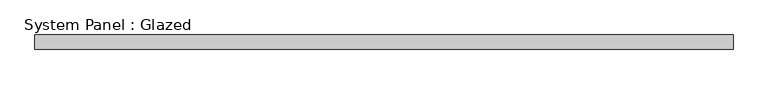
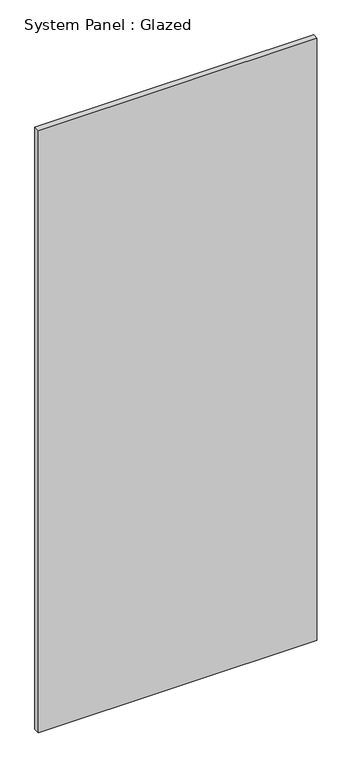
"""IFC4 building model written with IfcOpenShell, lengths in millimetres: plate geometry, System Panel : Glazed."""

from ifc_helpers import new_model, si_unit, origin, origin_with_axes, place, context, project, spatial, polyline, outline, extrude, source, transform, mapped, element, save


def system_panel_glazed_670afc41(model_context):
    return source(origin(), model_context, "Body", "SweptSolid", [
        extrude(outline(polyline([(612.5000001, -44.45), (-612.5000001, -44.45), (-612.5000001, -19.05), (612.5000001, -19.05), (612.5000001, -44.45)])), origin_with_axes(), (0.0, 0.0, 1.0), 2800.0),
    ])


if __name__ == "__main__":
    model = new_model("IFC4")
    model_context = context("Model", 3, world=origin())
    ifc_project = project(units=[si_unit("LENGTHUNIT", "METRE", prefix="MILLI")], contexts=[model_context])
    site = spatial("IfcSite", under=ifc_project)
    building = spatial("IfcBuilding", under=site)
    placement = place(None, origin())
    system_panel_glazed_shape = system_panel_glazed_670afc41(model_context)
    element("IfcPlate", 1, ObjectType="System Panel : Glazed", at=placement, inside=building, context=model_context, shape_type="MappedRepresentation", body=[
        mapped(system_panel_glazed_shape, transform((0.0, 0.0, 0.0), x_axis=(1.0, 0.0, 0.0), y_axis=(0.0, 1.0, 0.0), z_axis=(0.0, 0.0, 1.0))),
    ])
    save(model, "model.ifc")
